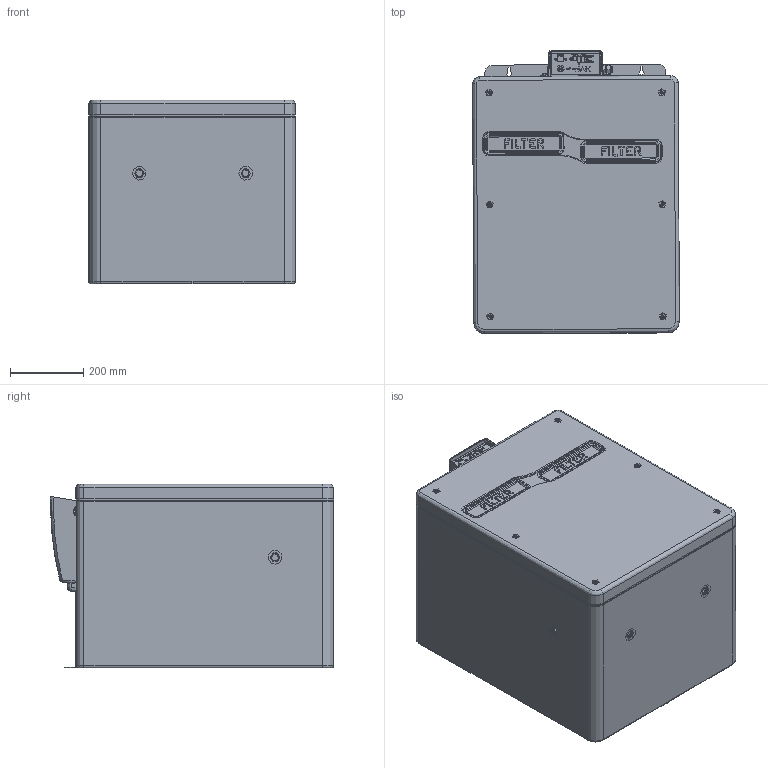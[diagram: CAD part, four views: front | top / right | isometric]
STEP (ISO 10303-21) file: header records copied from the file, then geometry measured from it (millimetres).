
FILE_DESCRIPTION(/* description */ (''),/* implementation_level */ '2;1');
FILE_NAME(/* name */ 'ECO 175 - BIM.stp',/* time_stamp */ '2024-11-27T14:08:43+01:00',/* author */ ('3113thmo'),/* organization */ (''),/* preprocessor_version */ 'ST-DEVELOPER v19.2',/* originating_system */ 'Autodesk Inventor 2023',/* authorisation */ '');
FILE_SCHEMA (('AUTOMOTIVE_DESIGN { 1 0 10303 214 3 1 1 }'));
Products named in the file (1): ECO 175 - BIM - 1
Bounding box: 562.95 x 771.36 x 500 mm (x, y, z)
Volume: 195882831.3 mm3; surface area: 2170222.1 mm2
Topology: 1 solids, 14 shells, 1973 faces, 5152 edges, 3366 vertices
Faces by surface type: plane 839, bspline 508, cylinder 358, cone 143, torus 115, sphere 10
Full cylindrical faces by diameter (mm): 0.4 x1, 5.6 x2, 6 x3, 6.5 x4, 10.5 x2, 12 x2, 13.6 x6, 17.5 x2, 19 x2, 23.376 x20, 25 x4, 38 x4, 121 x4, 125 x4
Entity records: 77127 total; most frequent: CARTESIAN_POINT 29218, ORIENTED_EDGE 10292, DIRECTION 8234, EDGE_CURVE 5146, VERTEX_POINT 3369, AXIS2_PLACEMENT_3D 2772, LINE 2690, VECTOR 2690
